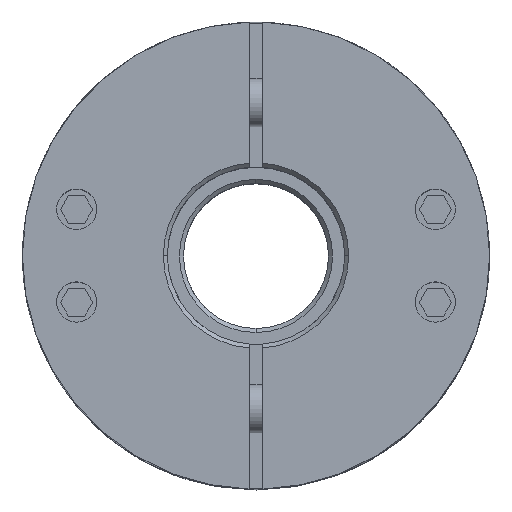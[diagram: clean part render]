
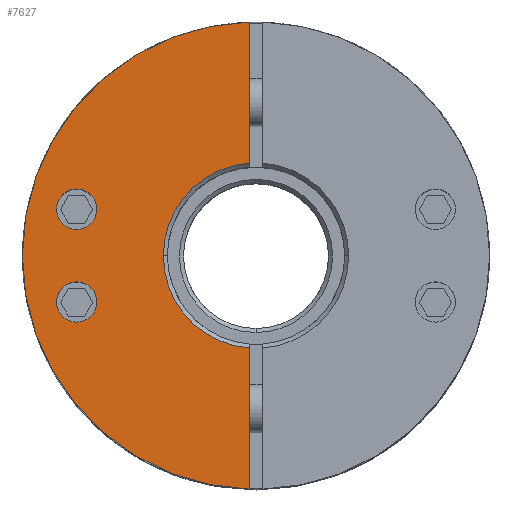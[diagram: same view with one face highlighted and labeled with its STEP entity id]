
A CAD part, top view. The second image highlights one B-rep face of the part: STEP entity #7627.
In plain terms, the highlighted planar face has unit normal (0, 0, 1).
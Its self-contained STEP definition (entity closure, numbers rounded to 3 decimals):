
#4241=CARTESIAN_POINT('',(-19.767,-5.759,27.125));
#4242=VERTEX_POINT('',#4241);
#4251=CARTESIAN_POINT('',(-24.767,-5.759,27.125));
#4252=VERTEX_POINT('',#4251);
#4253=CARTESIAN_POINT('',(-22.267,-5.759,27.125));
#4254=DIRECTION('',(0.0,0.0,-1.0));
#4255=DIRECTION('',(1.0,0.0,0.0));
#4256=AXIS2_PLACEMENT_3D('',#4253,#4254,#4255);
#4257=CIRCLE('',#4256,2.5);
#4258=EDGE_CURVE('',#4252,#4242,#4257,.T.);
#4367=CARTESIAN_POINT('',(-19.767,5.759,27.125));
#4368=VERTEX_POINT('',#4367);
#4377=CARTESIAN_POINT('',(-24.767,5.759,27.125));
#4378=VERTEX_POINT('',#4377);
#4379=CARTESIAN_POINT('',(-22.267,5.759,27.125));
#4380=DIRECTION('',(0.0,0.0,-1.0));
#4381=DIRECTION('',(1.0,0.0,0.0));
#4382=AXIS2_PLACEMENT_3D('',#4379,#4380,#4381);
#4383=CIRCLE('',#4382,2.5);
#4384=EDGE_CURVE('',#4378,#4368,#4383,.T.);
#4596=CARTESIAN_POINT('',(-29.0,0.,27.125));
#4597=VERTEX_POINT('',#4596);
#4604=CARTESIAN_POINT('',(-0.75,28.99,27.125));
#4605=VERTEX_POINT('',#4604);
#4606=CARTESIAN_POINT('',(0.0,0.0,27.125));
#4607=DIRECTION('',(0.0,0.0,-1.0));
#4608=DIRECTION('',(1.0,0.0,0.0));
#4609=AXIS2_PLACEMENT_3D('',#4606,#4607,#4608);
#4610=CIRCLE('',#4609,29.0);
#4611=EDGE_CURVE('',#4597,#4605,#4610,.T.);
#4958=CARTESIAN_POINT('',(-11.5,0.,27.125));
#4959=VERTEX_POINT('',#4958);
#4975=CARTESIAN_POINT('',(-0.75,11.476,27.125));
#4976=VERTEX_POINT('',#4975);
#4990=CARTESIAN_POINT('',(0.0,0.0,27.125));
#4991=DIRECTION('',(0.0,0.0,1.0));
#4992=DIRECTION('',(-1.0,0.0,0.0));
#4993=AXIS2_PLACEMENT_3D('',#4990,#4991,#4992);
#4994=CIRCLE('',#4993,11.5);
#4995=EDGE_CURVE('',#4976,#4959,#4994,.T.);
#7380=CARTESIAN_POINT('',(-0.75,-11.476,27.125));
#7381=VERTEX_POINT('',#7380);
#7382=CARTESIAN_POINT('',(0.0,0.0,27.125));
#7383=DIRECTION('',(0.0,0.0,1.0));
#7384=DIRECTION('',(-1.0,0.0,0.0));
#7385=AXIS2_PLACEMENT_3D('',#7382,#7383,#7384);
#7386=CIRCLE('',#7385,11.5);
#7387=EDGE_CURVE('',#4959,#7381,#7386,.T.);
#7420=CARTESIAN_POINT('',(-0.75,11.476,27.125));
#7421=DIRECTION('',(0.0,1.0,0.0));
#7422=VECTOR('',#7421,17.515);
#7423=LINE('',#7420,#7422);
#7424=EDGE_CURVE('',#4976,#4605,#7423,.T.);
#7534=CARTESIAN_POINT('',(-0.75,-28.99,27.125));
#7535=VERTEX_POINT('',#7534);
#7536=CARTESIAN_POINT('',(-0.75,-28.99,27.125));
#7537=DIRECTION('',(0.0,1.0,0.0));
#7538=VECTOR('',#7537,17.515);
#7539=LINE('',#7536,#7538);
#7540=EDGE_CURVE('',#7535,#7381,#7539,.T.);
#7588=CARTESIAN_POINT('',(2.636,0.,27.125));
#7589=DIRECTION('',(0.0,0.0,1.0));
#7590=DIRECTION('',(1.0,0.0,0.0));
#7591=AXIS2_PLACEMENT_3D('',#7588,#7589,#7590);
#7592=PLANE('',#7591);
#7593=ORIENTED_EDGE('',*,*,#4995,.F.);
#7594=ORIENTED_EDGE('',*,*,#7424,.T.);
#7595=ORIENTED_EDGE('',*,*,#4611,.F.);
#7596=CARTESIAN_POINT('',(0.0,0.0,27.125));
#7597=DIRECTION('',(0.0,0.0,-1.0));
#7598=DIRECTION('',(1.0,0.0,0.0));
#7599=AXIS2_PLACEMENT_3D('',#7596,#7597,#7598);
#7600=CIRCLE('',#7599,29.0);
#7601=EDGE_CURVE('',#7535,#4597,#7600,.T.);
#7602=ORIENTED_EDGE('',*,*,#7601,.F.);
#7603=ORIENTED_EDGE('',*,*,#7540,.T.);
#7604=ORIENTED_EDGE('',*,*,#7387,.F.);
#7605=EDGE_LOOP('',(#7593,#7594,#7595,#7602,#7603,#7604));
#7606=FACE_OUTER_BOUND('',#7605,.T.);
#7607=CARTESIAN_POINT('',(-22.267,-5.759,27.125));
#7608=DIRECTION('',(0.0,0.0,-1.0));
#7609=DIRECTION('',(1.0,0.0,0.0));
#7610=AXIS2_PLACEMENT_3D('',#7607,#7608,#7609);
#7611=CIRCLE('',#7610,2.5);
#7612=EDGE_CURVE('',#4242,#4252,#7611,.T.);
#7613=ORIENTED_EDGE('',*,*,#7612,.T.);
#7614=ORIENTED_EDGE('',*,*,#4258,.T.);
#7615=EDGE_LOOP('',(#7613,#7614));
#7616=FACE_BOUND('',#7615,.T.);
#7617=CARTESIAN_POINT('',(-22.267,5.759,27.125));
#7618=DIRECTION('',(0.0,0.0,-1.0));
#7619=DIRECTION('',(1.0,0.0,0.0));
#7620=AXIS2_PLACEMENT_3D('',#7617,#7618,#7619);
#7621=CIRCLE('',#7620,2.5);
#7622=EDGE_CURVE('',#4368,#4378,#7621,.T.);
#7623=ORIENTED_EDGE('',*,*,#7622,.T.);
#7624=ORIENTED_EDGE('',*,*,#4384,.T.);
#7625=EDGE_LOOP('',(#7623,#7624));
#7626=FACE_BOUND('',#7625,.T.);
#7627=ADVANCED_FACE('',(#7606,#7616,#7626),#7592,.T.);
